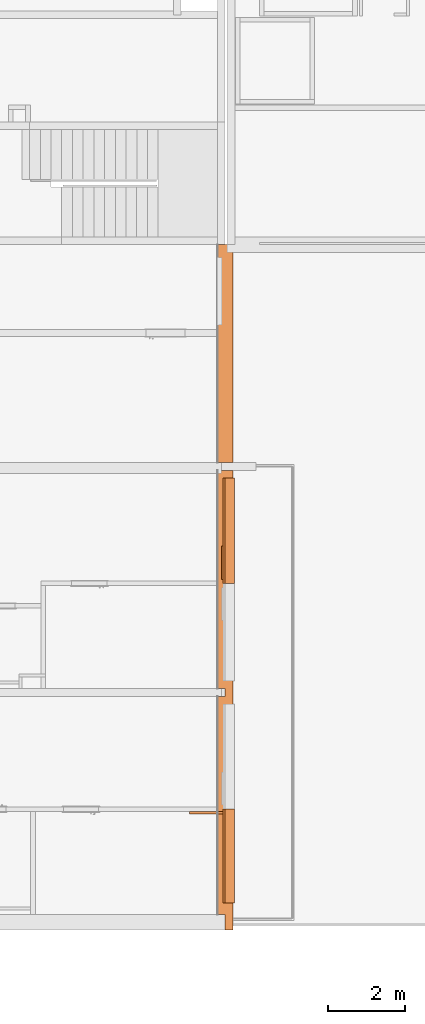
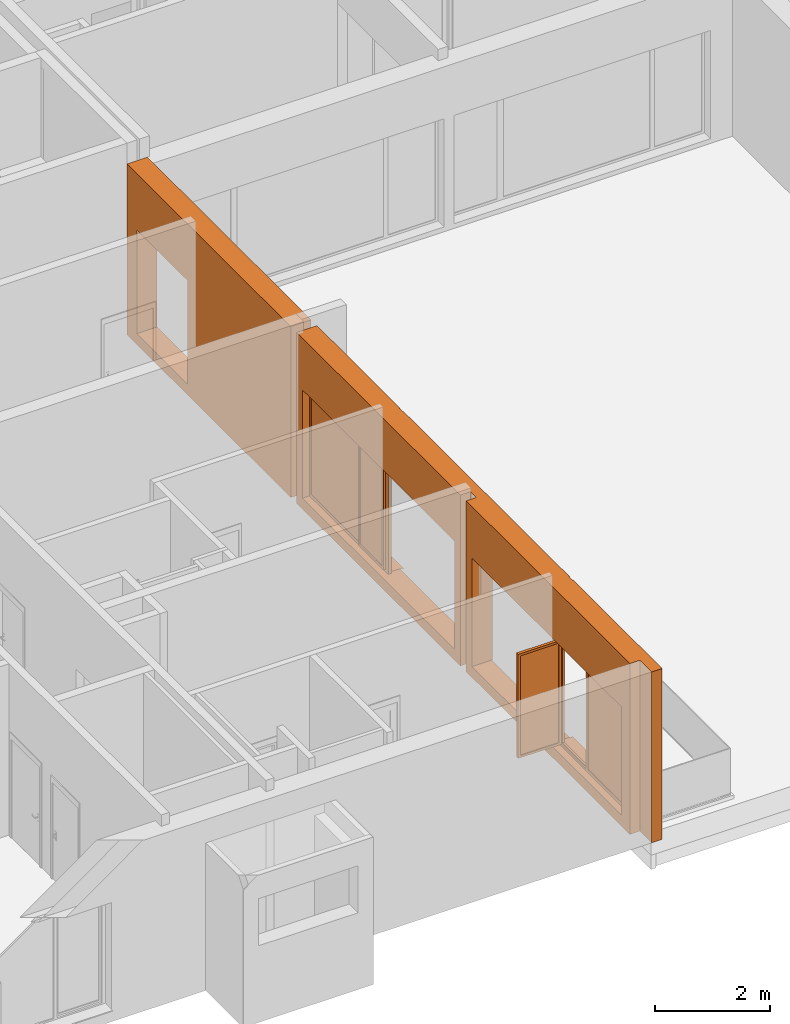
# One storey, part 29 of 46: 3 proxies, 5 openings.
"""IFC2X3 building model written with IfcOpenShell, lengths in millimetres."""

from ifc_helpers import new_model, entity, si_unit, converted_unit, derived_unit, money_unit, direction, frame, origin_with_axes, origin_2d_with_axis, place, context, subcontext, project, spatial, rectangle, extrude, open_shell, faceted_brep, surface_model, material, material_list, type_object, element, fill, save


model = new_model("IFC2X3")

# Units and contexts
model_context = context("Model", 3, precision=0.01, world=origin_with_axes(), true_north=direction((0.34421633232, 0.938890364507)))
body_context = subcontext(model_context, "Body", "Model", "MODEL_VIEW")
ifc_project = project(units=[si_unit("LENGTHUNIT", "METRE", prefix="MILLI"), si_unit("AREAUNIT", "SQUARE_METRE"), si_unit("VOLUMEUNIT", "CUBIC_METRE"), converted_unit("PLANEANGLEUNIT", "DEGREE", entity("IfcPlaneAngleMeasure", 0.0174532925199), si_unit("PLANEANGLEUNIT", "RADIAN"), dimensions=[0, 0, 0, 0, 0, 0, 0]), si_unit("SOLIDANGLEUNIT", "STERADIAN"), money_unit("USD"), converted_unit("TIMEUNIT", "Year", entity("IfcTimeMeasure", 31556926.0), si_unit("TIMEUNIT", "SECOND"), dimensions=[0, 0, 1, 0, 0, 0, 0]), si_unit("MASSUNIT", "GRAM", prefix="KILO"), si_unit("THERMODYNAMICTEMPERATUREUNIT", "DEGREE_CELSIUS"), si_unit("LUMINOUSINTENSITYUNIT", "LUMEN"), si_unit("ENERGYUNIT", "JOULE", prefix="MEGA"), derived_unit("THERMALCONDUCTANCEUNIT", [(si_unit("POWERUNIT", "WATT"), 1), (si_unit("LENGTHUNIT", "METRE"), -1), (si_unit("THERMODYNAMICTEMPERATUREUNIT", "KELVIN"), -1)]), derived_unit("SPECIFICHEATCAPACITYUNIT", [(si_unit("ENERGYUNIT", "JOULE"), 1), (si_unit("MASSUNIT", "GRAM", prefix="KILO"), -1), (si_unit("THERMODYNAMICTEMPERATUREUNIT", "KELVIN"), -1)]), derived_unit("MASSDENSITYUNIT", [(si_unit("MASSUNIT", "GRAM", prefix="KILO"), 1), (si_unit("VOLUMEUNIT", "CUBIC_METRE"), -1)])], contexts=[model_context])

# Site, building, storey
site_placement = place(None, origin_with_axes())
site = spatial("IfcSite", under=ifc_project, at=site_placement, Name="USTRONIE MORSKIE", CompositionType="ELEMENT")
building_placement = place(site_placement, origin_with_axes())
building = spatial("IfcBuilding", under=site, at=building_placement, Name="Budynek", CompositionType="ELEMENT")
storey_placement = place(building_placement, origin_with_axes())
storey = spatial("IfcBuildingStorey", under=building, at=storey_placement, Name="PARTER", CompositionType="ELEMENT", Elevation=0.0)

# Proxies, openings
ifc_material_1 = material(Name="Tynk zewnętrzny")
ifc_material_2 = material(Name="Wełna ELEW wysoki priorytet")
ifc_material_3 = material(Name="Beton konstrukcyjny B25")
ifc_material_list = material_list([ifc_material_1, ifc_material_2, ifc_material_3])
building_element_proxy_type_1 = type_object("IfcBuildingElementProxyType", Name="20+20 HP 410", PredefinedType="NOTDEFINED")
proxy_1_placement = place(storey_placement, frame((367067.920919, 726801.198942, -230.0), z_axis=(0.0, 0.0, 1.0), x_axis=(0.0, -1.0, 0.0)))
proxy_1 = element("IfcBuildingElementProxy", 1, at=proxy_1_placement, inside=storey, type_object=building_element_proxy_type_1, material=ifc_material_list, Name="SZ-01", context=body_context, shape_type="Brep", body=[
    faceted_brep([(5699.99990542, 310.0, 130.0), (-9.4584947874e-05, 310.0, 130.0), (0.0, 310.0, 3630.0), (5699.99990542, 310.0, 3630.0), (-9.4584947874e-05, 300.0, 130.0), (5699.99990542, 300.0, 130.0), (0.0, 300.0, 3630.0), (5699.99990542, 300.0, 3630.0)], [[[0, 1, 2, 3]], [[4, 1, 0, 5]], [[1, 4, 6, 2]], [[7, 3, 2, 6]], [[5, 0, 3, 7]], [[4, 5, 7, 6]]]),
    faceted_brep([(8789.98055504, 310.0, 130.0), (5899.99990542, 310.0, 130.0), (5899.99990542, 310.0, 150.0), (8789.98055504, 310.0, 150.0), (5899.99990542, 300.0, 130.0), (8789.98055504, 300.0, 130.0), (5899.99990542, 300.0, 150.0), (8789.98055504, 300.0, 150.0)], [[[0, 1, 2, 3]], [[4, 1, 0, 5]], [[1, 4, 6, 2]], [[3, 2, 6, 7]], [[5, 0, 3, 7]], [[4, 5, 7, 6]]]),
    faceted_brep([(14689.980539, 310.0, 130.0), (8909.98055504, 310.0, 130.0), (8909.98055504, 310.0, 150.0), (14689.980539, 310.0, 150.0), (8909.98055504, 300.0, 130.0), (14689.980539, 300.0, 130.0), (8909.98055504, 300.0, 150.0), (14689.980539, 300.0, 150.0)], [[[0, 1, 2, 3]], [[4, 1, 0, 5]], [[1, 4, 6, 2]], [[3, 2, 6, 7]], [[5, 0, 3, 7]], [[4, 5, 7, 6]]]),
    faceted_brep([(17799.9999054, 310.0, 70.0), (17799.9999054, 310.0, 130.0), (14809.980539, 310.0, 130.0), (14809.980539, 310.0, 150.0), (17649.9999054, 310.0, 150.0), (17649.9999054, 310.0, 230.0), (14809.980539, 310.0, 230.0), (14809.980539, 310.0, 3630.0), (17909.9999054, 310.0, 3630.0), (17909.9999054, 310.0, 0.0), (17799.9999054, 310.0, 0.0), (17799.9999054, 310.0, 5.0), (17799.9999054, 300.0, 70.0), (17799.9999054, 300.0, 130.0), (14809.980539, 300.0, 130.0), (14809.980539, 300.0, 150.0), (17649.9999054, 300.0, 150.0), (17649.9999054, 300.0, 230.0), (14809.980539, 300.0, 230.0), (14809.980539, 300.0, 3630.0), (17909.9999054, 300.0, 3630.0), (17909.9999054, 300.0, 0.0), (17799.9999054, 300.0, 0.0), (17799.9999054, 300.0, 5.0)], [[[0, 1, 2, 3, 4, 5, 6, 7, 8, 9, 10, 11]], [[1, 0, 12, 13]], [[14, 2, 1, 13]], [[2, 14, 15, 3]], [[4, 3, 15, 16]], [[5, 4, 16, 17]], [[18, 6, 5, 17]], [[6, 18, 19, 7]], [[20, 8, 7, 19]], [[8, 20, 21, 9]], [[22, 10, 9, 21]], [[23, 11, 10, 22]], [[12, 0, 11, 23]], [[13, 12, 23, 22, 21, 20, 19, 18, 17, 16, 15, 14]]]),
    faceted_brep([(8789.98055504, 310.0, 230.0), (5899.99990542, 310.0, 230.0), (5899.99990542, 310.0, 3630.0), (8789.98055504, 310.0, 3630.0), (5899.99990542, 300.0, 230.0), (8789.98055504, 300.0, 230.0), (5899.99990542, 300.0, 3630.0), (8789.98055504, 300.0, 3630.0)], [[[0, 1, 2, 3]], [[4, 1, 0, 5]], [[1, 4, 6, 2]], [[7, 3, 2, 6]], [[5, 0, 3, 7]], [[4, 5, 7, 6]]]),
    faceted_brep([(14689.980539, 310.0, 230.0), (8909.98055504, 310.0, 230.0), (8909.98055504, 310.0, 3630.0), (14689.980539, 310.0, 3630.0), (8909.98055504, 300.0, 230.0), (14689.980539, 300.0, 230.0), (8909.98055504, 300.0, 3630.0), (14689.980539, 300.0, 3630.0)], [[[0, 1, 2, 3]], [[4, 1, 0, 5]], [[1, 4, 6, 2]], [[7, 3, 2, 6]], [[5, 0, 3, 7]], [[4, 5, 7, 6]]]),
    faceted_brep([(5699.99990542, 300.0, 3630.0), (0.0, 300.0, 3630.0), (0.0, 100.0, 3630.0), (5699.99990542, 100.0, 3630.0), (5699.99990542, 300.0, 0.0), (0.0, 300.0, 0.0), (0.0, 100.0, 0.0), (5699.99990542, 100.0, 0.0)], [[[0, 1, 2, 3]], [[4, 5, 1, 0]], [[2, 1, 5, 6]], [[3, 2, 6, 7]], [[3, 7, 4, 0]], [[7, 6, 5, 4]]]),
    faceted_brep([(17909.9999054, 300.0, 3630.0), (5899.99990542, 300.0, 3630.0), (5899.99990542, 100.0, 3630.0), (17909.9999054, 100.0, 3630.0), (17909.9999054, 300.0, 0.0), (5899.99990542, 300.0, 0.0), (5899.99990542, 100.0, 0.0), (17909.9999054, 100.0, 0.0)], [[[0, 1, 2, 3]], [[4, 5, 1, 0]], [[2, 1, 5, 6]], [[3, 2, 6, 7]], [[3, 7, 4, 0]], [[7, 6, 5, 4]]]),
    faceted_brep([(5699.97755223, 100.0, 3630.0), (0.0, 100.0, 3630.0), (0.0, -100.0, 3630.0), (5699.97801766, -100.0, 3630.0), (5699.97755223, 100.0, 0.0), (0.0, 100.0, 0.0), (0.0, -100.0, 0.0), (5699.97801766, -100.0, 0.0)], [[[0, 1, 2, 3]], [[4, 5, 1, 0]], [[2, 1, 5, 6]], [[3, 2, 6, 7]], [[3, 7, 4, 0]], [[7, 6, 5, 4]]]),
    faceted_brep([(17499.9999054, 100.0, 3630.0), (11799.9999054, 100.0, 3630.0), (11799.9999054, -100.0, 3630.0), (17499.9999054, -100.0, 3630.0), (17499.9999054, 100.0, 0.0), (11799.9999054, 100.0, 0.0), (11799.9999054, -100.0, 0.0), (17499.9999054, -100.0, 0.0)], [[[0, 1, 2, 3]], [[4, 5, 1, 0]], [[2, 1, 5, 6]], [[3, 2, 6, 7]], [[3, 7, 4, 0]], [[7, 6, 5, 4]]]),
    faceted_brep([(11599.9999054, 100.0, 3630.0), (5899.97755223, 100.0, 3630.0), (5899.97801766, -100.0, 3630.0), (11599.9999054, -100.0, 3630.0), (11599.9999054, 100.0, 0.0), (5899.97755223, 100.0, 0.0), (5899.97801766, -100.0, 0.0), (11599.9999054, -100.0, 0.0)], [[[0, 1, 2, 3]], [[4, 5, 1, 0]], [[2, 1, 5, 6]], [[3, 2, 6, 7]], [[3, 7, 4, 0]], [[7, 6, 5, 4]]]),
])
opening_1_placement = place(proxy_1_placement, frame((13374.9868435, 0.0, 230.0), z_axis=(0.0, 0.0, 1.0), x_axis=(1.0, 0.0, 0.0)))
element("IfcOpeningElement", 2, at=opening_1_placement, cuts=proxy_1, Name="Wz.05", context=body_context, shape_type="SweptSolid", body=[
    extrude(rectangle(XDim=2749.98566828, YDim=2300.0, at=origin_2d_with_axis()), frame((0.0, 100.0, 1150.0), z_axis=(0.0, 1.0, 0.0), x_axis=(1.0, 0.0, 0.0)), (0.0, 0.0, 1.0), 620.0),
    extrude(rectangle(XDim=2749.98566828, YDim=2300.0, at=origin_2d_with_axis()), frame((0.0, 100.0, 1150.0), z_axis=(0.0, -1.0, 0.0), x_axis=(1.0, 0.0, 0.0)), (0.0, 0.0, 1.0), 610.0),
])
opening_2_placement = place(proxy_1_placement, frame((15974.9918314, 0.0, 230.0), z_axis=(0.0, 0.0, 1.0), x_axis=(1.0, 0.0, 0.0)))
opening_2 = element("IfcOpeningElement", 3, at=opening_2_placement, cuts=proxy_1, Name="Wz.05", context=body_context, shape_type="SweptSolid", body=[
    extrude(rectangle(XDim=2450.02430751, YDim=2300.0, at=origin_2d_with_axis()), frame((0.0, 100.0, 1150.0), z_axis=(0.0, -1.0, 0.0), x_axis=(-1.0, 0.0, 0.0)), (0.0, 0.0, -1.0), 620.0),
    extrude(rectangle(XDim=2450.02430751, YDim=2300.0, at=origin_2d_with_axis()), frame((0.0, 100.0, 1150.0), z_axis=(0.0, 1.0, 0.0), x_axis=(-1.0, 0.0, 0.0)), (0.0, 0.0, -1.0), 610.0),
])
opening_3_placement = place(proxy_1_placement, frame((7475.00891863, 0.0, 230.0), z_axis=(0.0, 0.0, 1.0), x_axis=(1.0, 0.0, 0.0)))
opening_3 = element("IfcOpeningElement", 4, at=opening_3_placement, cuts=proxy_1, Name="Wz.05", context=body_context, shape_type="SweptSolid", body=[
    extrude(rectangle(XDim=2749.94323081, YDim=2300.0, at=origin_2d_with_axis()), frame((0.0, 100.0, 1150.0), z_axis=(0.0, 1.0, 0.0), x_axis=(1.0, 0.0, 0.0)), (0.0, 0.0, 1.0), 620.0),
    extrude(rectangle(XDim=2749.94323081, YDim=2300.0, at=origin_2d_with_axis()), frame((0.0, 100.0, 1150.0), z_axis=(0.0, -1.0, 0.0), x_axis=(1.0, 0.0, 0.0)), (0.0, 0.0, 1.0), 610.0),
])
opening_4_placement = place(proxy_1_placement, frame((10124.9923386, 0.0, 230.0), z_axis=(0.0, 0.0, 1.0), x_axis=(1.0, 0.0, 0.0)))
element("IfcOpeningElement", 5, at=opening_4_placement, cuts=proxy_1, Name="Wz.05", context=body_context, shape_type="SweptSolid", body=[
    extrude(rectangle(XDim=2550.02360912, YDim=2300.0, at=origin_2d_with_axis()), frame((0.0, 100.0, 1150.0), z_axis=(0.0, -1.0, 0.0), x_axis=(-1.0, 0.0, 0.0)), (0.0, 0.0, -1.0), 620.0),
    extrude(rectangle(XDim=2550.02360912, YDim=2300.0, at=origin_2d_with_axis()), frame((0.0, 100.0, 1150.0), z_axis=(0.0, 1.0, 0.0), x_axis=(-1.0, 0.0, 0.0)), (0.0, 0.0, -1.0), 610.0),
])
opening_5_placement = place(proxy_1_placement, frame((1219.99990542, 0.0, 230.0), z_axis=(0.0, 0.0, 1.0), x_axis=(1.0, 0.0, 0.0)))
element("IfcOpeningElement", 6, at=opening_5_placement, cuts=proxy_1, Name="D5", context=body_context, shape_type="SweptSolid", body=[
    extrude(rectangle(XDim=1760.0, YDim=2200.0, at=origin_2d_with_axis()), frame((0.0, 410.0, 1100.0), z_axis=(0.0, 1.0, 0.0), x_axis=(-1.0, 0.0, 0.0)), (0.0, 0.0, -1.0), 1230.0),
])
building_element_proxy_type_2 = type_object("IfcBuildingElementProxyType", Name="Okno podwójne 23", PredefinedType="NOTDEFINED")
proxy_2_placement = place(opening_2_placement, frame((1225.01215376, 0.0, 0.0), z_axis=(0.0, 0.0, 1.0), x_axis=(-1.0, 0.0, 0.0)))
proxy_2 = element("IfcBuildingElementProxy", 7, at=proxy_2_placement, inside=storey, type_object=building_element_proxy_type_2, Name="Wz.05", context=body_context, shape_type="SurfaceModel", body=[
    surface_model("IfcShellBasedSurfaceModel", [(0.0, -101.0, 50.0), (0.0, -101.0, 40.0), (2450.02430751, -101.0, 40.0), (2450.02430751, -101.0, 50.0), (0.0, -340.0, 28.5714285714), (2450.02430751, -340.0, 28.5714285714), (0.0, -340.0, 8.57142857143), (2450.02430751, -340.0, 8.57142857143), (0.0, -330.0, 18.5714285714), (2450.02430751, -330.0, 18.5714285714)], [open_shell([[[0, 1, 2, 3]], [[1, 4, 5, 2]], [[4, 6, 7, 5]], [[6, 8, 9, 7]]])]),
    faceted_brep([(2325.02430751, -59.9999999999, 2235.0), (2325.02430751, -100.0, 2235.0), (2450.02430751, -100.0, 2235.0), (2450.02430751, -40.0, 2235.0), (2345.02430751, -40.0, 2235.0), (2345.02430751, -59.9999999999, 2235.0), (2325.02430751, -59.9999999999, 65.0), (2325.02430751, -100.0, 65.0), (2450.02430751, -100.0, 65.0), (2450.02430751, -40.0, 65.0), (2345.02430751, -40.0, 65.0), (2345.02430751, -59.9999999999, 65.0)], [[[0, 1, 2, 3, 4, 5]], [[6, 7, 1, 0]], [[8, 2, 1, 7]], [[9, 3, 2, 8]], [[4, 3, 9, 10]], [[10, 11, 5, 4]], [[5, 11, 6, 0]], [[11, 10, 9, 8, 7, 6]]]),
    faceted_brep([(1475.02430751, -40.0, 2235.0), (1395.02430751, -40.0, 2235.0), (1395.02430751, -100.0, 2235.0), (1495.02430751, -100.0, 2235.0), (1495.02430751, -59.9999999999, 2235.0), (1475.02430751, -59.9999999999, 2235.0), (1475.02430751, -40.0, 65.0), (1395.02430751, -40.0, 65.0), (1395.02430751, -100.0, 65.0), (1495.02430751, -100.0, 65.0), (1495.02430751, -59.9999999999, 65.0), (1475.02430751, -59.9999999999, 65.0)], [[[0, 1, 2, 3, 4, 5]], [[6, 7, 1, 0]], [[1, 7, 8, 2]], [[9, 3, 2, 8]], [[4, 3, 9, 10]], [[10, 11, 5, 4]], [[5, 11, 6, 0]], [[11, 10, 9, 8, 7, 6]]]),
    faceted_brep([(2325.02430751, -59.9999999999, 65.0), (2325.02430751, -100.0, 65.0), (2450.02430751, -100.0, 65.0), (2450.02430751, -40.0, 65.0), (2345.02430751, -40.0, 65.0), (2345.02430751, -59.9999999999, 65.0), (1495.02430751, -59.9999999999, 65.0), (1495.02430751, -100.0, 65.0), (0.0, -100.0, 65.0), (0.0, -100.0, 0.0), (2450.02430751, -100.0, 0.0), (1395.02430751, -100.0, 65.0), (65.0000000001, -100.0, 65.0), (2450.02430751, -40.0, 0.0), (1475.02430751, -40.0, 45.0), (2345.02430751, -40.0, 45.0), (0.0, -40.0, 0.0), (0.0, -40.0, 65.0), (65.0000000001, -40.0, 65.0), (1395.02430751, -40.0, 65.0), (1475.02430751, -40.0, 65.0), (2345.02430751, -59.9999999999, 45.0), (1475.02430751, -59.9999999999, 45.0), (1475.02430751, -59.9999999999, 65.0)], [[[0, 1, 2, 3, 4, 5]], [[6, 7, 1, 0]], [[8, 9, 10, 2, 1, 7, 11, 12]], [[13, 3, 2, 10]], [[14, 15, 4, 3, 13, 16, 17, 18, 19, 20]], [[15, 21, 5, 4]], [[5, 21, 22, 23, 6, 0]], [[23, 20, 19, 11, 7, 6]], [[17, 16, 9, 8]], [[16, 13, 10, 9]], [[19, 18, 12, 11]], [[18, 17, 8, 12]], [[14, 22, 21, 15]], [[23, 22, 14, 20]]]),
    faceted_brep([(1475.02430751, -40.0, 2235.0), (1395.02430751, -40.0, 2235.0), (65.0000000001, -40.0, 2235.0), (0.0, -40.0, 2235.0), (0.0, -40.0, 2300.0), (2450.02430751, -40.0, 2300.0), (2450.02430751, -40.0, 2235.0), (2345.02430751, -40.0, 2235.0), (2345.02430751, -40.0, 2255.0), (1475.02430751, -40.0, 2255.0), (1475.02430751, -59.9999999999, 2235.0), (1495.02430751, -59.9999999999, 2235.0), (1495.02430751, -100.0, 2235.0), (1395.02430751, -100.0, 2235.0), (65.0000000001, -100.0, 2235.0), (0.0, -100.0, 2235.0), (0.0, -100.0, 2300.0), (2450.02430751, -100.0, 2300.0), (2450.02430751, -100.0, 2235.0), (2345.02430751, -59.9999999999, 2235.0), (2325.02430751, -100.0, 2235.0), (2325.02430751, -59.9999999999, 2235.0), (2345.02430751, -59.9999999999, 2255.0), (1475.02430751, -59.9999999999, 2255.0)], [[[0, 1, 2, 3, 4, 5, 6, 7, 8, 9]], [[10, 11, 12, 13, 1, 0]], [[2, 1, 13, 14]], [[3, 2, 14, 15]], [[4, 3, 15, 16]], [[5, 4, 16, 17]], [[6, 5, 17, 18]], [[19, 7, 6, 18, 20, 21]], [[7, 19, 22, 8]], [[8, 22, 23, 9]], [[9, 23, 10, 0]], [[21, 11, 10, 23, 22, 19]], [[21, 20, 12, 11]], [[12, 20, 18, 17, 16, 15, 14, 13]]]),
    faceted_brep([(65.0000000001, -100.0, 2235.0), (65.0000000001, -40.0, 2235.0), (0.0, -40.0, 2235.0), (0.0, -100.0, 2235.0), (65.0000000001, -100.0, 65.0), (65.0000000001, -40.0, 65.0), (0.0, -40.0, 65.0), (0.0, -100.0, 65.0)], [[[0, 1, 2, 3]], [[4, 5, 1, 0]], [[1, 5, 6, 2]], [[3, 2, 6, 7]], [[0, 3, 7, 4]], [[7, 6, 5, 4]]]),
    surface_model("IfcShellBasedSurfaceModel", [(65.0000000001, -69.9999999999, 65.0), (1395.02430751, -69.9999999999, 65.0), (1395.02430751, -69.9999999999, 2235.0), (65.0000000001, -69.9999999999, 2235.0)], [open_shell([[[0, 1, 2, 3]]])]),
    surface_model("IfcShellBasedSurfaceModel", [(65.0000000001, -50.0, 65.0), (65.0000000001, -50.0, 2235.0), (1395.02430751, -50.0, 2235.0), (1395.02430751, -50.0, 65.0)], [open_shell([[[0, 1, 2, 3]]])]),
    faceted_brep([(2325.02430751, 785.0, 2210.0), (2385.02430751, 785.0, 2210.0), (2385.02430751, 830.0, 2210.0), (2325.02430751, 830.0, 2210.0), (2325.02430751, 785.0, 90.0), (2385.02430751, 785.0, 90.0), (2385.02430751, 830.0, 90.0), (2325.02430751, 830.0, 90.0)], [[[0, 1, 2, 3]], [[4, 5, 1, 0]], [[1, 5, 6, 2]], [[3, 2, 6, 7]], [[0, 3, 7, 4]], [[7, 6, 5, 4]]]),
    faceted_brep([(2325.02430751, 5.00000000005, 90.0), (2385.02430751, 5.00000000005, 90.0), (2385.02430751, -40.0, 90.0), (2325.02430751, -40.0, 90.0), (2325.02430751, 5.00000000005, 2210.0), (2385.02430751, 5.00000000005, 2210.0), (2385.02430751, -40.0, 2210.0), (2325.02430751, -40.0, 2210.0)], [[[0, 1, 2, 3]], [[4, 5, 1, 0]], [[1, 5, 6, 2]], [[3, 2, 6, 7]], [[0, 3, 7, 4]], [[7, 6, 5, 4]]]),
    faceted_brep([(2325.02430751, -40.0, 45.0), (2385.02430751, -40.0, 45.0), (2385.02430751, -40.0, 90.0), (2325.02430751, -40.0, 90.0), (2325.02430751, 830.0, 45.0), (2385.02430751, 830.0, 45.0), (2385.02430751, 830.0, 90.0), (2385.02430751, 785.0, 90.0), (2385.02430751, 5.00000000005, 90.0), (2325.02430751, 5.00000000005, 90.0), (2325.02430751, 785.0, 90.0), (2325.02430751, 830.0, 90.0)], [[[0, 1, 2, 3]], [[4, 5, 1, 0]], [[1, 5, 6, 7, 8, 2]], [[3, 2, 8, 9]], [[0, 3, 9, 10, 11, 4]], [[11, 6, 5, 4]], [[10, 7, 6, 11]], [[9, 8, 7, 10]]]),
    faceted_brep([(2325.02430751, 830.0, 2255.0), (2385.02430751, 830.0, 2255.0), (2385.02430751, 830.0, 2210.0), (2325.02430751, 830.0, 2210.0), (2325.02430751, -40.0, 2255.0), (2385.02430751, -40.0, 2255.0), (2385.02430751, -40.0, 2210.0), (2385.02430751, 5.00000000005, 2210.0), (2385.02430751, 785.0, 2210.0), (2325.02430751, 785.0, 2210.0), (2325.02430751, 5.00000000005, 2210.0), (2325.02430751, -40.0, 2210.0)], [[[0, 1, 2, 3]], [[4, 5, 1, 0]], [[1, 5, 6, 7, 8, 2]], [[3, 2, 8, 9]], [[0, 3, 9, 10, 11, 4]], [[11, 6, 5, 4]], [[10, 7, 6, 11]], [[9, 8, 7, 10]]]),
    surface_model("IfcShellBasedSurfaceModel", [(2345.02430751, 785.0, 90.0), (2345.02430751, 5.00000000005, 90.0), (2345.02430751, 5.00000000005, 2210.0), (2345.02430751, 785.0, 2210.0)], [open_shell([[[0, 1, 2, 3]]])]),
    surface_model("IfcShellBasedSurfaceModel", [(2365.02430751, 785.0, 90.0), (2365.02430751, 785.0, 2210.0), (2365.02430751, 5.00000000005, 2210.0), (2365.02430751, 5.00000000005, 90.0)], [open_shell([[[0, 1, 2, 3]]])]),
])
fill(opening_2, proxy_2)
proxy_3_placement = place(opening_3_placement, frame((1374.9716154, 0.0, 0.0), z_axis=(0.0, 0.0, 1.0), x_axis=(-1.0, 0.0, 0.0)))
proxy_3 = element("IfcBuildingElementProxy", 8, at=proxy_3_placement, inside=storey, type_object=building_element_proxy_type_2, Name="Wz.05", context=body_context, shape_type="SurfaceModel", body=[
    surface_model("IfcShellBasedSurfaceModel", [(2749.94323081, -101.0, 50.0), (0.0, -101.0, 50.0), (0.0, -101.0, 40.0), (2749.94323081, -101.0, 40.0), (0.0, -340.0, 28.5714285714), (2749.94323081, -340.0, 28.5714285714), (0.0, -340.0, 8.57142857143), (2749.94323081, -340.0, 8.57142857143), (0.0, -330.0, 18.5714285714), (2749.94323081, -330.0, 18.5714285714)], [open_shell([[[0, 1, 2, 3]], [[3, 2, 4, 5]], [[5, 4, 6, 7]], [[7, 6, 8, 9]]])]),
    faceted_brep([(125.0, -59.9999999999, 2235.0), (105.0, -59.9999999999, 2235.0), (105.0, -40.0, 2235.0), (0.0, -40.0, 2235.0), (0.0, -100.0, 2235.0), (125.0, -100.0, 2235.0), (125.0, -59.9999999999, 65.0), (105.0, -59.9999999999, 65.0), (105.0, -40.0, 65.0), (0.0, -40.0, 65.0), (0.0, -100.0, 65.0), (125.0, -100.0, 65.0)], [[[0, 1, 2, 3, 4, 5]], [[1, 0, 6, 7]], [[8, 2, 1, 7]], [[2, 8, 9, 3]], [[9, 10, 4, 3]], [[10, 11, 5, 4]], [[6, 0, 5, 11]], [[7, 6, 11, 10, 9, 8]]]),
    faceted_brep([(975.0, -40.0, 2235.0), (975.0, -59.9999999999, 2235.0), (955.0, -59.9999999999, 2235.0), (955.0, -100.0, 2235.0), (1055.0, -100.0, 2235.0), (1055.0, -40.0, 2235.0), (975.0, -40.0, 65.0), (975.0, -59.9999999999, 65.0), (955.0, -59.9999999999, 65.0), (955.0, -100.0, 65.0), (1055.0, -100.0, 65.0), (1055.0, -40.0, 65.0)], [[[0, 1, 2, 3, 4, 5]], [[1, 0, 6, 7]], [[8, 2, 1, 7]], [[2, 8, 9, 3]], [[9, 10, 4, 3]], [[5, 4, 10, 11]], [[6, 0, 5, 11]], [[7, 6, 11, 10, 9, 8]]]),
    faceted_brep([(125.0, -59.9999999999, 65.0), (105.0, -59.9999999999, 65.0), (105.0, -40.0, 65.0), (0.0, -40.0, 65.0), (0.0, -100.0, 65.0), (125.0, -100.0, 65.0), (955.0, -59.9999999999, 65.0), (975.0, -59.9999999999, 65.0), (975.0, -59.9999999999, 45.0), (105.0, -59.9999999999, 45.0), (105.0, -40.0, 45.0), (975.0, -40.0, 45.0), (975.0, -40.0, 65.0), (1055.0, -40.0, 65.0), (2684.94323081, -40.0, 65.0), (2749.94323081, -40.0, 65.0), (2749.94323081, -40.0, 0.0), (0.0, -40.0, 0.0), (0.0, -100.0, 0.0), (2749.94323081, -100.0, 65.0), (2684.94323081, -100.0, 65.0), (1055.0, -100.0, 65.0), (955.0, -100.0, 65.0), (2749.94323081, -100.0, 0.0)], [[[0, 1, 2, 3, 4, 5]], [[1, 0, 6, 7, 8, 9]], [[10, 2, 1, 9]], [[11, 12, 13, 14, 15, 16, 17, 3, 2, 10]], [[17, 18, 4, 3]], [[19, 20, 21, 22, 5, 4, 18, 23]], [[6, 0, 5, 22]], [[7, 6, 22, 21, 13, 12]], [[7, 12, 11, 8]], [[11, 10, 9, 8]], [[13, 21, 20, 14]], [[14, 20, 19, 15]], [[15, 19, 23, 16]], [[16, 23, 18, 17]]]),
    faceted_brep([(975.0, -40.0, 2235.0), (975.0, -40.0, 2255.0), (105.0, -40.0, 2255.0), (105.0, -40.0, 2235.0), (0.0, -40.0, 2235.0), (0.0, -40.0, 2300.0), (2749.94323081, -40.0, 2300.0), (2749.94323081, -40.0, 2235.0), (2684.94323081, -40.0, 2235.0), (1055.0, -40.0, 2235.0), (975.0, -59.9999999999, 2235.0), (975.0, -59.9999999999, 2255.0), (105.0, -59.9999999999, 2255.0), (105.0, -59.9999999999, 2235.0), (125.0, -59.9999999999, 2235.0), (125.0, -100.0, 2235.0), (0.0, -100.0, 2235.0), (0.0, -100.0, 2300.0), (2749.94323081, -100.0, 2300.0), (2749.94323081, -100.0, 2235.0), (2684.94323081, -100.0, 2235.0), (1055.0, -100.0, 2235.0), (955.0, -100.0, 2235.0), (955.0, -59.9999999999, 2235.0)], [[[0, 1, 2, 3, 4, 5, 6, 7, 8, 9]], [[1, 0, 10, 11]], [[2, 1, 11, 12]], [[3, 2, 12, 13]], [[13, 14, 15, 16, 4, 3]], [[4, 16, 17, 5]], [[5, 17, 18, 6]], [[6, 18, 19, 7]], [[7, 19, 20, 8]], [[8, 20, 21, 9]], [[10, 0, 9, 21, 22, 23]], [[14, 13, 12, 11, 10, 23]], [[14, 23, 22, 15]], [[22, 21, 20, 19, 18, 17, 16, 15]]]),
    faceted_brep([(2684.94323081, -100.0, 2235.0), (2749.94323081, -100.0, 2235.0), (2749.94323081, -40.0, 2235.0), (2684.94323081, -40.0, 2235.0), (2684.94323081, -100.0, 65.0), (2749.94323081, -100.0, 65.0), (2749.94323081, -40.0, 65.0), (2684.94323081, -40.0, 65.0)], [[[0, 1, 2, 3]], [[0, 4, 5, 1]], [[1, 5, 6, 2]], [[3, 2, 6, 7]], [[4, 0, 3, 7]], [[5, 4, 7, 6]]]),
    surface_model("IfcShellBasedSurfaceModel", [(2684.94323081, -69.9999999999, 65.0), (2684.94323081, -69.9999999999, 2235.0), (1055.0, -69.9999999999, 2235.0), (1055.0, -69.9999999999, 65.0)], [open_shell([[[0, 1, 2, 3]]])]),
    surface_model("IfcShellBasedSurfaceModel", [(2684.94323081, -50.0, 65.0), (1055.0, -50.0, 65.0), (1055.0, -50.0, 2235.0), (2684.94323081, -50.0, 2235.0)], [open_shell([[[0, 1, 2, 3]]])]),
    faceted_brep([(930.0, -59.9999999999, 2210.0), (975.0, -59.9999999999, 2210.0), (975.0, 0.0, 2210.0), (930.0, 0.0, 2210.0), (930.0, -59.9999999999, 90.0), (975.0, -59.9999999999, 90.0), (975.0, 0.0, 90.0), (930.0, 0.0, 90.0)], [[[0, 1, 2, 3]], [[0, 4, 5, 1]], [[1, 5, 6, 2]], [[3, 2, 6, 7]], [[4, 0, 3, 7]], [[5, 4, 7, 6]]]),
    faceted_brep([(150.0, -59.9999999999, 90.0), (105.0, -59.9999999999, 90.0), (105.0, 0.0, 90.0), (150.0, 0.0, 90.0), (150.0, -59.9999999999, 2210.0), (105.0, -59.9999999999, 2210.0), (105.0, 0.0, 2210.0), (150.0, 0.0, 2210.0)], [[[0, 1, 2, 3]], [[0, 4, 5, 1]], [[1, 5, 6, 2]], [[3, 2, 6, 7]], [[4, 0, 3, 7]], [[5, 4, 7, 6]]]),
    faceted_brep([(105.0, -59.9999999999, 45.0), (105.0, -59.9999999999, 90.0), (105.0, 0.0, 90.0), (105.0, 0.0, 45.0), (975.0, -59.9999999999, 45.0), (975.0, -59.9999999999, 90.0), (930.0, -59.9999999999, 90.0), (150.0, -59.9999999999, 90.0), (150.0, 0.0, 90.0), (930.0, 0.0, 90.0), (975.0, 0.0, 90.0), (975.0, 0.0, 45.0)], [[[0, 1, 2, 3]], [[0, 4, 5, 6, 7, 1]], [[1, 7, 8, 2]], [[3, 2, 8, 9, 10, 11]], [[4, 0, 3, 11]], [[5, 4, 11, 10]], [[6, 5, 10, 9]], [[7, 6, 9, 8]]]),
    faceted_brep([(975.0, -59.9999999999, 2255.0), (975.0, -59.9999999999, 2210.0), (975.0, 0.0, 2210.0), (975.0, 0.0, 2255.0), (105.0, -59.9999999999, 2255.0), (105.0, -59.9999999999, 2210.0), (150.0, -59.9999999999, 2210.0), (930.0, -59.9999999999, 2210.0), (930.0, 0.0, 2210.0), (150.0, 0.0, 2210.0), (105.0, 0.0, 2210.0), (105.0, 0.0, 2255.0)], [[[0, 1, 2, 3]], [[0, 4, 5, 6, 7, 1]], [[1, 7, 8, 2]], [[3, 2, 8, 9, 10, 11]], [[4, 0, 3, 11]], [[5, 4, 11, 10]], [[6, 5, 10, 9]], [[7, 6, 9, 8]]]),
    surface_model("IfcShellBasedSurfaceModel", [(930.0, -40.0, 90.0), (930.0, -40.0, 2210.0), (150.0, -40.0, 2210.0), (150.0, -40.0, 90.0)], [open_shell([[[0, 1, 2, 3]]])]),
    surface_model("IfcShellBasedSurfaceModel", [(930.0, -20.0, 90.0), (150.0, -20.0, 90.0), (150.0, -20.0, 2210.0), (930.0, -20.0, 2210.0)], [open_shell([[[0, 1, 2, 3]]])]),
])
fill(opening_3, proxy_3)

save(model, "model.ifc")
